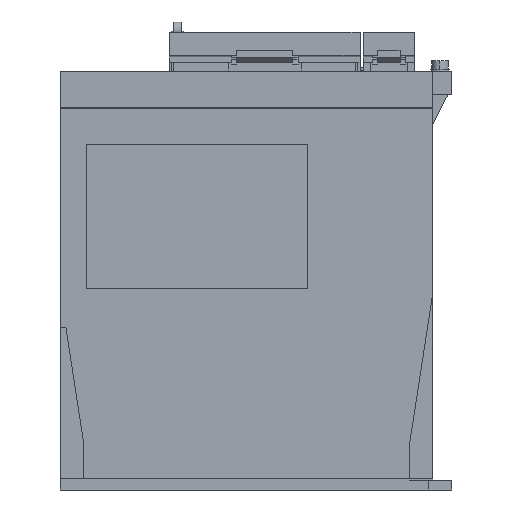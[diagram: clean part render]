
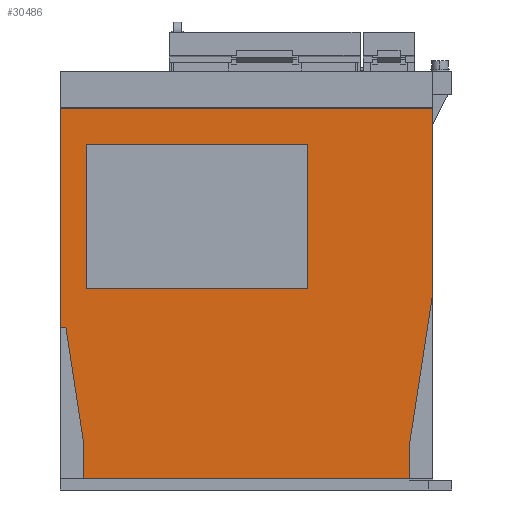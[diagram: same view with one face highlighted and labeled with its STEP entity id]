
A CAD part, left-side view. The second image highlights one B-rep face of the part: STEP entity #30486.
In plain terms, the highlighted planar face has unit normal (-1, 0, 0).
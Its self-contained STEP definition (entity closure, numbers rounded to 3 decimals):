
#4348=DIRECTION('',(0.,-1.,0.));
#4349=VECTOR('',#4348,140.);
#4350=CARTESIAN_POINT('',(0.,150.,4.9));
#4351=LINE('',#4350,#4349);
#4668=DIRECTION('',(0.,0.,1.));
#4669=VECTOR('',#4668,15.1);
#4670=CARTESIAN_POINT('',(0.,10.,4.9));
#4671=LINE('',#4670,#4669);
#4712=DIRECTION('',(0.,0.,-1.));
#4713=VECTOR('',#4712,79.1);
#4714=CARTESIAN_POINT('',(0.,0.,164.1));
#4715=LINE('',#4714,#4713);
#4716=DIRECTION('',(0.,0.152,-0.988));
#4717=VECTOR('',#4716,65.765);
#4718=CARTESIAN_POINT('',(0.,0.,85.));
#4719=LINE('',#4718,#4717);
#4720=DIRECTION('',(0.,0.,1.));
#4721=VECTOR('',#4720,15.1);
#4722=CARTESIAN_POINT('',(0.,150.,4.9));
#4723=LINE('',#4722,#4721);
#4724=DIRECTION('',(0.,0.152,0.988));
#4725=VECTOR('',#4724,50.506);
#4726=CARTESIAN_POINT('',(0.,150.,20.));
#4727=LINE('',#4726,#4725);
#4728=DIRECTION('',(0.,0.999,0.035));
#4729=VECTOR('',#4728,2.322);
#4730=CARTESIAN_POINT('',(0.,157.68,69.919));
#4731=LINE('',#4730,#4729);
#4778=DIRECTION('',(0.,0.,-1.));
#4779=VECTOR('',#4778,94.1);
#4780=CARTESIAN_POINT('',(0.,160.,164.1));
#4781=LINE('',#4780,#4779);
#5255=DIRECTION('',(0.,1.,0.));
#5256=VECTOR('',#5255,160.);
#5257=CARTESIAN_POINT('',(0.,0.,164.1));
#5258=LINE('',#5257,#5256);
#5755=DIRECTION('',(0.,-1.,0.));
#5756=VECTOR('',#5755,95.);
#5757=CARTESIAN_POINT('',(0.,149.,148.6));
#5758=LINE('',#5757,#5756);
#5763=DIRECTION('',(0.,0.,-1.));
#5764=VECTOR('',#5763,62.);
#5765=CARTESIAN_POINT('',(0.,54.,148.6));
#5766=LINE('',#5765,#5764);
#5771=DIRECTION('',(0.,1.,0.));
#5772=VECTOR('',#5771,95.);
#5773=CARTESIAN_POINT('',(0.,54.,86.6));
#5774=LINE('',#5773,#5772);
#5779=DIRECTION('',(0.,0.,1.));
#5780=VECTOR('',#5779,62.);
#5781=CARTESIAN_POINT('',(0.,149.,86.6));
#5782=LINE('',#5781,#5780);
#16343=CARTESIAN_POINT('',(0.,150.,4.9));
#16344=VERTEX_POINT('',#16343);
#16345=CARTESIAN_POINT('',(0.,10.,4.9));
#16346=VERTEX_POINT('',#16345);
#16443=CARTESIAN_POINT('',(0.,0.,85.));
#16444=VERTEX_POINT('',#16443);
#16445=CARTESIAN_POINT('',(0.,0.,164.1));
#16446=VERTEX_POINT('',#16445);
#16512=CARTESIAN_POINT('',(0.,10.,20.));
#16514=VERTEX_POINT('',#16512);
#16547=CARTESIAN_POINT('',(0.,160.,164.1));
#16548=CARTESIAN_POINT('',(0.,160.,70.));
#16549=VERTEX_POINT('',#16547);
#16550=VERTEX_POINT('',#16548);
#16551=CARTESIAN_POINT('',(0.,150.,20.));
#16552=VERTEX_POINT('',#16551);
#16553=CARTESIAN_POINT('',(0.,157.68,69.919));
#16554=VERTEX_POINT('',#16553);
#16555=CARTESIAN_POINT('',(0.,149.,148.6));
#16556=CARTESIAN_POINT('',(0.,54.,148.6));
#16557=VERTEX_POINT('',#16555);
#16558=VERTEX_POINT('',#16556);
#16559=CARTESIAN_POINT('',(0.,149.,86.6));
#16560=VERTEX_POINT('',#16559);
#16561=CARTESIAN_POINT('',(0.,54.,86.6));
#16562=VERTEX_POINT('',#16561);
#30455=CARTESIAN_POINT('',(0.,160.,164.));
#30456=DIRECTION('',(-1.,0.,0.));
#30457=DIRECTION('',(0.,0.,-1.));
#30458=AXIS2_PLACEMENT_3D('',#30455,#30456,#30457);
#30459=PLANE('',#30458);
#30461=ORIENTED_EDGE('',*,*,#30460,.F.);
#30463=ORIENTED_EDGE('',*,*,#30462,.F.);
#30464=ORIENTED_EDGE('',*,*,#30114,.T.);
#30465=ORIENTED_EDGE('',*,*,#30245,.T.);
#30466=ORIENTED_EDGE('',*,*,#30303,.F.);
#30467=ORIENTED_EDGE('',*,*,#29917,.F.);
#30469=ORIENTED_EDGE('',*,*,#30468,.T.);
#30471=ORIENTED_EDGE('',*,*,#30470,.T.);
#30473=ORIENTED_EDGE('',*,*,#30472,.T.);
#30474=EDGE_LOOP('',(#30461,#30463,#30464,#30465,#30466,#30467,#30469,#30471,
#30473));
#30475=FACE_OUTER_BOUND('',#30474,.F.);
#30477=ORIENTED_EDGE('',*,*,#30476,.F.);
#30479=ORIENTED_EDGE('',*,*,#30478,.F.);
#30481=ORIENTED_EDGE('',*,*,#30480,.F.);
#30483=ORIENTED_EDGE('',*,*,#30482,.F.);
#30484=EDGE_LOOP('',(#30477,#30479,#30481,#30483));
#30485=FACE_BOUND('',#30484,.F.);
#29917=EDGE_CURVE('',#16344,#16346,#4351,.T.);
#30114=EDGE_CURVE('',#16446,#16444,#4715,.T.);
#30245=EDGE_CURVE('',#16444,#16514,#4719,.T.);
#30303=EDGE_CURVE('',#16346,#16514,#4671,.T.);
#30460=EDGE_CURVE('',#16549,#16550,#4781,.T.);
#30462=EDGE_CURVE('',#16446,#16549,#5258,.T.);
#30468=EDGE_CURVE('',#16344,#16552,#4723,.T.);
#30470=EDGE_CURVE('',#16552,#16554,#4727,.T.);
#30472=EDGE_CURVE('',#16554,#16550,#4731,.T.);
#30476=EDGE_CURVE('',#16557,#16558,#5758,.T.);
#30478=EDGE_CURVE('',#16560,#16557,#5782,.T.);
#30480=EDGE_CURVE('',#16562,#16560,#5774,.T.);
#30482=EDGE_CURVE('',#16558,#16562,#5766,.T.);
#30486=ADVANCED_FACE('',(#30475,#30485),#30459,.T.);
